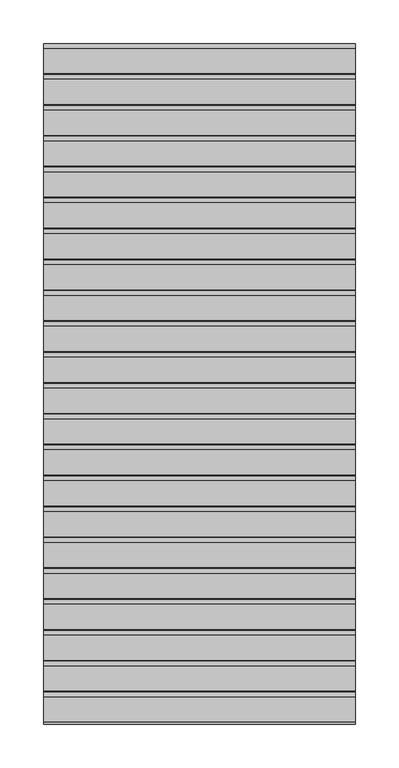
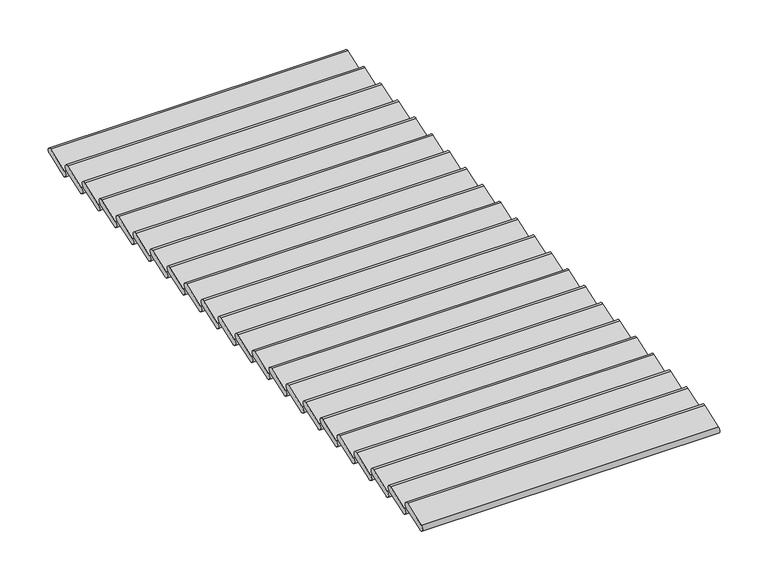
"""IFC4 building model written with IfcOpenShell, lengths in millimetres: proxy geometry, rfa_clas_euro : rfa_clas_euro."""

from ifc_helpers import new_model, si_unit, point, frame, frame_2d, origin, place, context, project, spatial, polyline, circle_curve, trimmed, segment, composite_curve, outline, extrude, source, transform, mapped, element, save


def generic_models_8ffc68b5(model_context):
    return source(origin(), model_context, "Body", "SweptSolid", [
        extrude(outline(composite_curve([segment(polyline([(143.5232492, 14.4463138), (171.8667278, 24.7624964)]), True, "CONTINUOUS"), segment(trimmed(circle_curve(frame_2d((173.2241203, 21.0330913)), 3.96875), [point((171.8667278, 24.7624964))], [point((174.5815127, 17.3036862))], False, "CARTESIAN"), True, "CONTINUOUS"), segment(polyline([(174.5815127, 17.3036862), (146.2380341, 6.9875036)]), True, "CONTINUOUS"), segment(trimmed(circle_curve(frame_2d((144.8806416, 10.7169087)), 3.96875), [point((146.2380341, 6.9875036))], [point((143.5232492, 14.4463138))], False, "CARTESIAN"), True, "CONTINUOUS")], self_intersect=False)), frame((-177.8, 0.0, 0.0), z_axis=(1.0, 0.0, 0.0), x_axis=(0.0, 1.0, 0.0)), (0.0, 0.0, 1.0), 355.6),
        extrude(outline(composite_curve([segment(polyline([(178.7506301, 14.4463138), (207.0941088, 24.7624964)]), True, "CONTINUOUS"), segment(trimmed(circle_curve(frame_2d((208.4515012, 21.0330913)), 3.96875), [point((207.0941088, 24.7624964))], [point((209.8088937, 17.3036862))], False, "CARTESIAN"), True, "CONTINUOUS"), segment(polyline([(209.8088937, 17.3036862), (181.465415, 6.9875036)]), True, "CONTINUOUS"), segment(trimmed(circle_curve(frame_2d((180.1080226, 10.7169087)), 3.96875), [point((181.465415, 6.9875036))], [point((178.7506301, 14.4463138))], False, "CARTESIAN"), True, "CONTINUOUS")], self_intersect=False)), frame((-177.8, 0.0, 0.0), z_axis=(1.0, 0.0, 0.0), x_axis=(0.0, 1.0, 0.0)), (0.0, 0.0, 1.0), 355.6),
        extrude(outline(composite_curve([segment(polyline([(213.9780111, 14.4463138), (242.3214898, 24.7624964)]), True, "CONTINUOUS"), segment(trimmed(circle_curve(frame_2d((243.6788822, 21.0330913)), 3.96875), [point((242.3214898, 24.7624964))], [point((245.0362746, 17.3036862))], False, "CARTESIAN"), True, "CONTINUOUS"), segment(polyline([(245.0362746, 17.3036862), (216.692796, 6.9875036)]), True, "CONTINUOUS"), segment(trimmed(circle_curve(frame_2d((215.3354035, 10.7169087)), 3.96875), [point((216.692796, 6.9875036))], [point((213.9780111, 14.4463138))], False, "CARTESIAN"), True, "CONTINUOUS")], self_intersect=False)), frame((-177.8, 0.0, 0.0), z_axis=(1.0, 0.0, 0.0), x_axis=(0.0, 1.0, 0.0)), (0.0, 0.0, 1.0), 355.6),
        extrude(outline(composite_curve([segment(polyline([(249.205392, 14.4463138), (277.5488707, 24.7624964)]), True, "CONTINUOUS"), segment(trimmed(circle_curve(frame_2d((278.9062631, 21.0330913)), 3.96875), [point((277.5488707, 24.7624964))], [point((280.2636556, 17.3036862))], False, "CARTESIAN"), True, "CONTINUOUS"), segment(polyline([(280.2636556, 17.3036862), (251.9201769, 6.9875036)]), True, "CONTINUOUS"), segment(trimmed(circle_curve(frame_2d((250.5627845, 10.7169087)), 3.96875), [point((251.9201769, 6.9875036))], [point((249.205392, 14.4463138))], False, "CARTESIAN"), True, "CONTINUOUS")], self_intersect=False)), frame((-177.8, 0.0, 0.0), z_axis=(1.0, 0.0, 0.0), x_axis=(0.0, 1.0, 0.0)), (0.0, 0.0, 1.0), 355.6),
        extrude(outline(composite_curve([segment(polyline([(284.432773, 14.4463138), (312.7762517, 24.7624964)]), True, "CONTINUOUS"), segment(trimmed(circle_curve(frame_2d((314.1336441, 21.0330913)), 3.96875), [point((312.7762517, 24.7624964))], [point((315.4910365, 17.3036862))], False, "CARTESIAN"), True, "CONTINUOUS"), segment(polyline([(315.4910365, 17.3036862), (287.1475579, 6.9875036)]), True, "CONTINUOUS"), segment(trimmed(circle_curve(frame_2d((285.7901654, 10.7169087)), 3.96875), [point((287.1475579, 6.9875036))], [point((284.432773, 14.4463138))], False, "CARTESIAN"), True, "CONTINUOUS")], self_intersect=False)), frame((-177.8, 0.0, 0.0), z_axis=(1.0, 0.0, 0.0), x_axis=(0.0, 1.0, 0.0)), (0.0, 0.0, 1.0), 355.6),
        extrude(outline(composite_curve([segment(polyline([(319.6601539, 14.4463138), (348.0036326, 24.7624964)]), True, "CONTINUOUS"), segment(trimmed(circle_curve(frame_2d((349.3610251, 21.0330913)), 3.96875), [point((348.0036326, 24.7624964))], [point((350.7184175, 17.3036862))], False, "CARTESIAN"), True, "CONTINUOUS"), segment(polyline([(350.7184175, 17.3036862), (322.3749388, 6.9875036)]), True, "CONTINUOUS"), segment(trimmed(circle_curve(frame_2d((321.0175464, 10.7169087)), 3.96875), [point((322.3749388, 6.9875036))], [point((319.6601539, 14.4463138))], False, "CARTESIAN"), True, "CONTINUOUS")], self_intersect=False)), frame((-177.8, 0.0, 0.0), z_axis=(1.0, 0.0, 0.0), x_axis=(0.0, 1.0, 0.0)), (0.0, 0.0, 1.0), 355.6),
        extrude(outline(composite_curve([segment(polyline([(354.8875349, 14.4463138), (383.2310136, 24.7624964)]), True, "CONTINUOUS"), segment(trimmed(circle_curve(frame_2d((384.588406, 21.0330913)), 3.96875), [point((383.2310136, 24.7624964))], [point((385.9457984, 17.3036862))], False, "CARTESIAN"), True, "CONTINUOUS"), segment(polyline([(385.9457984, 17.3036862), (357.6023198, 6.9875036)]), True, "CONTINUOUS"), segment(trimmed(circle_curve(frame_2d((356.2449273, 10.7169087)), 3.96875), [point((357.6023198, 6.9875036))], [point((354.8875349, 14.4463138))], False, "CARTESIAN"), True, "CONTINUOUS")], self_intersect=False)), frame((-177.8, 0.0, 0.0), z_axis=(1.0, 0.0, 0.0), x_axis=(0.0, 1.0, 0.0)), (0.0, 0.0, 1.0), 355.6),
        extrude(outline(composite_curve([segment(polyline([(390.1149158, 14.4463138), (418.4583945, 24.7624964)]), True, "CONTINUOUS"), segment(trimmed(circle_curve(frame_2d((419.815787, 21.0330913)), 3.96875), [point((418.4583945, 24.7624964))], [point((421.1731794, 17.3036862))], False, "CARTESIAN"), True, "CONTINUOUS"), segment(polyline([(421.1731794, 17.3036862), (392.8297007, 6.9875036)]), True, "CONTINUOUS"), segment(trimmed(circle_curve(frame_2d((391.4723083, 10.7169087)), 3.96875), [point((392.8297007, 6.9875036))], [point((390.1149158, 14.4463138))], False, "CARTESIAN"), True, "CONTINUOUS")], self_intersect=False)), frame((-177.8, 0.0, 0.0), z_axis=(1.0, 0.0, 0.0), x_axis=(0.0, 1.0, 0.0)), (0.0, 0.0, 1.0), 355.6),
        extrude(outline(composite_curve([segment(polyline([(425.3422968, 14.4463138), (453.6857755, 24.7624964)]), True, "CONTINUOUS"), segment(trimmed(circle_curve(frame_2d((455.0431679, 21.0330913)), 3.96875), [point((453.6857755, 24.7624964))], [point((456.4005604, 17.3036862))], False, "CARTESIAN"), True, "CONTINUOUS"), segment(polyline([(456.4005604, 17.3036862), (428.0570817, 6.9875036)]), True, "CONTINUOUS"), segment(trimmed(circle_curve(frame_2d((426.6996892, 10.7169087)), 3.96875), [point((428.0570817, 6.9875036))], [point((425.3422968, 14.4463138))], False, "CARTESIAN"), True, "CONTINUOUS")], self_intersect=False)), frame((-177.8, 0.0, 0.0), z_axis=(1.0, 0.0, 0.0), x_axis=(0.0, 1.0, 0.0)), (0.0, 0.0, 1.0), 355.6),
        extrude(outline(composite_curve([segment(polyline([(460.5696777, 14.4463138), (488.9131564, 24.7624964)]), True, "CONTINUOUS"), segment(trimmed(circle_curve(frame_2d((490.2705489, 21.0330913)), 3.96875), [point((488.9131564, 24.7624964))], [point((491.6279413, 17.3036862))], False, "CARTESIAN"), True, "CONTINUOUS"), segment(polyline([(491.6279413, 17.3036862), (463.2844626, 6.9875036)]), True, "CONTINUOUS"), segment(trimmed(circle_curve(frame_2d((461.9270702, 10.7169087)), 3.96875), [point((463.2844626, 6.9875036))], [point((460.5696777, 14.4463138))], False, "CARTESIAN"), True, "CONTINUOUS")], self_intersect=False)), frame((-177.8, 0.0, 0.0), z_axis=(1.0, 0.0, 0.0), x_axis=(0.0, 1.0, 0.0)), (0.0, 0.0, 1.0), 355.6),
        extrude(outline(composite_curve([segment(polyline([(495.7970587, 14.4463138), (524.1405374, 24.7624964)]), True, "CONTINUOUS"), segment(trimmed(circle_curve(frame_2d((525.4979298, 21.0330913)), 3.96875), [point((524.1405374, 24.7624964))], [point((526.8553223, 17.3036862))], False, "CARTESIAN"), True, "CONTINUOUS"), segment(polyline([(526.8553223, 17.3036862), (498.5118436, 6.9875036)]), True, "CONTINUOUS"), segment(trimmed(circle_curve(frame_2d((497.1544511, 10.7169087)), 3.96875), [point((498.5118436, 6.9875036))], [point((495.7970587, 14.4463138))], False, "CARTESIAN"), True, "CONTINUOUS")], self_intersect=False)), frame((-177.8, 0.0, 0.0), z_axis=(1.0, 0.0, 0.0), x_axis=(0.0, 1.0, 0.0)), (0.0, 0.0, 1.0), 355.6),
        extrude(outline(composite_curve([segment(polyline([(531.0244396, 14.4463138), (559.3679183, 24.7624964)]), True, "CONTINUOUS"), segment(trimmed(circle_curve(frame_2d((560.7253108, 21.0330913)), 3.96875), [point((559.3679183, 24.7624964))], [point((562.0827032, 17.3036862))], False, "CARTESIAN"), True, "CONTINUOUS"), segment(polyline([(562.0827032, 17.3036862), (533.7392245, 6.9875036)]), True, "CONTINUOUS"), segment(trimmed(circle_curve(frame_2d((532.3818321, 10.7169087)), 3.96875), [point((533.7392245, 6.9875036))], [point((531.0244396, 14.4463138))], False, "CARTESIAN"), True, "CONTINUOUS")], self_intersect=False)), frame((-177.8, 0.0, 0.0), z_axis=(1.0, 0.0, 0.0), x_axis=(0.0, 1.0, 0.0)), (0.0, 0.0, 1.0), 355.6),
        extrude(outline(composite_curve([segment(polyline([(566.2518206, 14.4463138), (594.5952993, 24.7624964)]), True, "CONTINUOUS"), segment(trimmed(circle_curve(frame_2d((595.9526917, 21.0330913)), 3.96875), [point((594.5952993, 24.7624964))], [point((597.3100842, 17.3036862))], False, "CARTESIAN"), True, "CONTINUOUS"), segment(polyline([(597.3100842, 17.3036862), (568.9666055, 6.9875036)]), True, "CONTINUOUS"), segment(trimmed(circle_curve(frame_2d((567.609213, 10.7169087)), 3.96875), [point((568.9666055, 6.9875036))], [point((566.2518206, 14.4463138))], False, "CARTESIAN"), True, "CONTINUOUS")], self_intersect=False)), frame((-177.8, 0.0, 0.0), z_axis=(1.0, 0.0, 0.0), x_axis=(0.0, 1.0, 0.0)), (0.0, 0.0, 1.0), 355.6),
        extrude(outline(composite_curve([segment(polyline([(601.4792016, 14.4463138), (629.8226802, 24.7624964)]), True, "CONTINUOUS"), segment(trimmed(circle_curve(frame_2d((631.1800727, 21.0330913)), 3.96875), [point((629.8226802, 24.7624964))], [point((632.5374651, 17.3036862))], False, "CARTESIAN"), True, "CONTINUOUS"), segment(polyline([(632.5374651, 17.3036862), (604.1939864, 6.9875036)]), True, "CONTINUOUS"), segment(trimmed(circle_curve(frame_2d((602.836594, 10.7169087)), 3.96875), [point((604.1939864, 6.9875036))], [point((601.4792016, 14.4463138))], False, "CARTESIAN"), True, "CONTINUOUS")], self_intersect=False)), frame((-177.8, 0.0, 0.0), z_axis=(1.0, 0.0, 0.0), x_axis=(0.0, 1.0, 0.0)), (0.0, 0.0, 1.0), 355.6),
        extrude(outline(composite_curve([segment(polyline([(636.7065825, 14.4463138), (665.0500612, 24.7624964)]), True, "CONTINUOUS"), segment(trimmed(circle_curve(frame_2d((666.4074536, 21.0330913)), 3.96875), [point((665.0500612, 24.7624964))], [point((667.7648461, 17.3036862))], False, "CARTESIAN"), True, "CONTINUOUS"), segment(polyline([(667.7648461, 17.3036862), (639.4213674, 6.9875036)]), True, "CONTINUOUS"), segment(trimmed(circle_curve(frame_2d((638.0639749, 10.7169087)), 3.96875), [point((639.4213674, 6.9875036))], [point((636.7065825, 14.4463138))], False, "CARTESIAN"), True, "CONTINUOUS")], self_intersect=False)), frame((-177.8, 0.0, 0.0), z_axis=(1.0, 0.0, 0.0), x_axis=(0.0, 1.0, 0.0)), (0.0, 0.0, 1.0), 355.6),
        extrude(outline(composite_curve([segment(polyline([(671.9339635, 14.4463138), (700.2774421, 24.7624964)]), True, "CONTINUOUS"), segment(trimmed(circle_curve(frame_2d((701.6348346, 21.0330913)), 3.96875), [point((700.2774421, 24.7624964))], [point((702.992227, 17.3036862))], False, "CARTESIAN"), True, "CONTINUOUS"), segment(polyline([(702.992227, 17.3036862), (674.6487483, 6.9875036)]), True, "CONTINUOUS"), segment(trimmed(circle_curve(frame_2d((673.2913559, 10.7169087)), 3.96875), [point((674.6487483, 6.9875036))], [point((671.9339635, 14.4463138))], False, "CARTESIAN"), True, "CONTINUOUS")], self_intersect=False)), frame((-177.8, 0.0, 0.0), z_axis=(1.0, 0.0, 0.0), x_axis=(0.0, 1.0, 0.0)), (0.0, 0.0, 1.0), 355.6),
        extrude(outline(composite_curve([segment(polyline([(707.1613444, 14.4463138), (735.5048231, 24.7624964)]), True, "CONTINUOUS"), segment(trimmed(circle_curve(frame_2d((736.8622155, 21.0330913)), 3.96875), [point((735.5048231, 24.7624964))], [point((738.219608, 17.3036862))], False, "CARTESIAN"), True, "CONTINUOUS"), segment(polyline([(738.219608, 17.3036862), (709.8761293, 6.9875036)]), True, "CONTINUOUS"), segment(trimmed(circle_curve(frame_2d((708.5187369, 10.7169087)), 3.96875), [point((709.8761293, 6.9875036))], [point((707.1613444, 14.4463138))], False, "CARTESIAN"), True, "CONTINUOUS")], self_intersect=False)), frame((-177.8, 0.0, 0.0), z_axis=(1.0, 0.0, 0.0), x_axis=(0.0, 1.0, 0.0)), (0.0, 0.0, 1.0), 355.6),
        extrude(outline(composite_curve([segment(polyline([(742.3887254, 14.4463138), (770.732204, 24.7624964)]), True, "CONTINUOUS"), segment(trimmed(circle_curve(frame_2d((772.0895965, 21.0330913)), 3.96875), [point((770.732204, 24.7624964))], [point((773.4469889, 17.3036862))], False, "CARTESIAN"), True, "CONTINUOUS"), segment(polyline([(773.4469889, 17.3036862), (745.1035102, 6.9875036)]), True, "CONTINUOUS"), segment(trimmed(circle_curve(frame_2d((743.7461178, 10.7169087)), 3.96875), [point((745.1035102, 6.9875036))], [point((742.3887254, 14.4463138))], False, "CARTESIAN"), True, "CONTINUOUS")], self_intersect=False)), frame((-177.8, 0.0, 0.0), z_axis=(1.0, 0.0, 0.0), x_axis=(0.0, 1.0, 0.0)), (0.0, 0.0, 1.0), 355.6),
        extrude(outline(composite_curve([segment(polyline([(777.6161063, 14.4463138), (805.959585, 24.7624964)]), True, "CONTINUOUS"), segment(trimmed(circle_curve(frame_2d((807.3169774, 21.0330913)), 3.96875), [point((805.959585, 24.7624964))], [point((808.6743699, 17.3036862))], False, "CARTESIAN"), True, "CONTINUOUS"), segment(polyline([(808.6743699, 17.3036862), (780.3308912, 6.9875036)]), True, "CONTINUOUS"), segment(trimmed(circle_curve(frame_2d((778.9734988, 10.7169087)), 3.96875), [point((780.3308912, 6.9875036))], [point((777.6161063, 14.4463138))], False, "CARTESIAN"), True, "CONTINUOUS")], self_intersect=False)), frame((-177.8, 0.0, 0.0), z_axis=(1.0, 0.0, 0.0), x_axis=(0.0, 1.0, 0.0)), (0.0, 0.0, 1.0), 355.6),
        extrude(outline(composite_curve([segment(polyline([(812.8434873, 14.4463138), (841.1869659, 24.7624964)]), True, "CONTINUOUS"), segment(trimmed(circle_curve(frame_2d((842.5443584, 21.0330913)), 3.96875), [point((841.1869659, 24.7624964))], [point((843.9017508, 17.3036862))], False, "CARTESIAN"), True, "CONTINUOUS"), segment(polyline([(843.9017508, 17.3036862), (815.5582722, 6.9875036)]), True, "CONTINUOUS"), segment(trimmed(circle_curve(frame_2d((814.2008797, 10.7169087)), 3.96875), [point((815.5582722, 6.9875036))], [point((812.8434873, 14.4463138))], False, "CARTESIAN"), True, "CONTINUOUS")], self_intersect=False)), frame((-177.8, 0.0, 0.0), z_axis=(1.0, 0.0, 0.0), x_axis=(0.0, 1.0, 0.0)), (0.0, 0.0, 1.0), 355.6),
        extrude(outline(composite_curve([segment(polyline([(108.2958682, 14.4463138), (136.6393469, 24.7624964)]), True, "CONTINUOUS"), segment(trimmed(circle_curve(frame_2d((137.9967393, 21.0330913)), 3.96875), [point((136.6393469, 24.7624964))], [point((139.3541318, 17.3036862))], False, "CARTESIAN"), True, "CONTINUOUS"), segment(polyline([(139.3541318, 17.3036862), (111.0106531, 6.9875036)]), True, "CONTINUOUS"), segment(trimmed(circle_curve(frame_2d((109.6532607, 10.7169087)), 3.96875), [point((111.0106531, 6.9875036))], [point((108.2958682, 14.4463138))], False, "CARTESIAN"), True, "CONTINUOUS")], self_intersect=False)), frame((-177.8, 0.0, 0.0), z_axis=(1.0, 0.0, 0.0), x_axis=(0.0, 1.0, 0.0)), (0.0, 0.0, 1.0), 355.6),
        extrude(outline(composite_curve([segment(polyline([(848.0708682, 14.4463138), (876.4143469, 24.7624964)]), True, "CONTINUOUS"), segment(trimmed(circle_curve(frame_2d((877.7717393, 21.0330913)), 3.96875), [point((876.4143469, 24.7624964))], [point((879.1291318, 17.3036862))], False, "CARTESIAN"), True, "CONTINUOUS"), segment(polyline([(879.1291318, 17.3036862), (850.7856531, 6.9875036)]), True, "CONTINUOUS"), segment(trimmed(circle_curve(frame_2d((849.4282607, 10.7169087)), 3.96875), [point((850.7856531, 6.9875036))], [point((848.0708682, 14.4463138))], False, "CARTESIAN"), True, "CONTINUOUS")], self_intersect=False)), frame((-177.8, 0.0, 0.0), z_axis=(1.0, 0.0, 0.0), x_axis=(0.0, 1.0, 0.0)), (0.0, 0.0, 1.0), 355.6),
    ])


if __name__ == "__main__":
    model = new_model("IFC4")
    model_context = context("Model", 3, world=origin())
    ifc_project = project(units=[si_unit("LENGTHUNIT", "METRE", prefix="MILLI")], contexts=[model_context])
    site = spatial("IfcSite", under=ifc_project)
    building = spatial("IfcBuilding", under=site)
    placement = place(None, origin())
    generic_models_shape = generic_models_8ffc68b5(model_context)
    element("IfcBuildingElementProxy", 1, Name="rfa_clas_euro : rfa_clas_euro", ObjectType="rfa_clas_euro : rfa_clas_euro", at=placement, inside=building, context=model_context, shape_type="MappedRepresentation", body=[
        mapped(generic_models_shape, transform((0.0, 0.0, 0.0), x_axis=(1.0, 0.0, 0.0), y_axis=(0.0, 1.0, 0.0), z_axis=(0.0, 0.0, 1.0))),
    ])
    save(model, "model.ifc")
